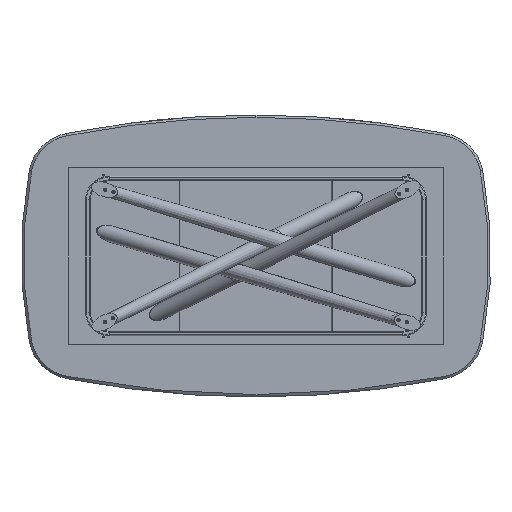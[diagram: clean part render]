
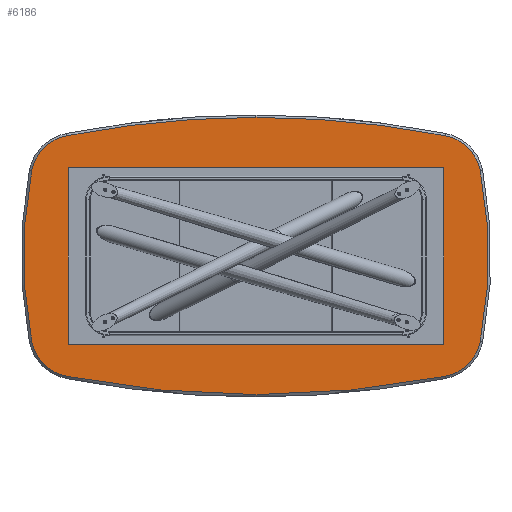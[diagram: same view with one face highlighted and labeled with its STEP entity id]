
A CAD part, front view. The second image highlights one B-rep face of the part: STEP entity #6186.
In plain terms, the highlighted planar face has unit normal (0, -1, 0).
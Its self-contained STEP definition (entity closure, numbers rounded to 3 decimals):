
#26 = EDGE_CURVE ( 'NONE', #6988, #4010, #11777, .T. ) ;
#78 = CIRCLE ( 'NONE', #7252, 190. ) ;
#124 = CARTESIAN_POINT ( 'NONE',  ( 0., 0., 590. ) ) ;
#384 = VERTEX_POINT ( 'NONE', #6684 ) ;
#427 = CARTESIAN_POINT ( 'NONE',  ( 0., 0., -3600. ) ) ;
#504 = CARTESIAN_POINT ( 'NONE',  ( -954.894, 0., -362.002 ) ) ;
#633 = DIRECTION ( 'NONE',  ( 0., -1., 0. ) ) ;
#663 = CARTESIAN_POINT ( 'NONE',  ( 768.435, 0., 325.495 ) ) ;
#879 = AXIS2_PLACEMENT_3D ( 'NONE', #7455, #4363, #11325 ) ;
#888 = AXIS2_PLACEMENT_3D ( 'NONE', #5545, #2594, #7481 ) ;
#898 = CIRCLE ( 'NONE', #9486, 4190. ) ;
#934 = ORIENTED_EDGE ( 'NONE', *, *, #12324, .T. ) ;
#1148 = DIRECTION ( 'NONE',  ( 0., -1., 0. ) ) ;
#1449 = CARTESIAN_POINT ( 'NONE',  ( -894., 0., 0. ) ) ;
#1729 = EDGE_CURVE ( 'NONE', #3922, #1943, #9342, .T. ) ;
#1824 = DIRECTION ( 'NONE',  ( 0., -1., 0. ) ) ;
#1943 = VERTEX_POINT ( 'NONE', #5301 ) ;
#1965 = VERTEX_POINT ( 'NONE', #124 ) ;
#2048 = EDGE_CURVE ( 'NONE', #7772, #3922, #11963, .T. ) ;
#2384 = DIRECTION ( 'NONE',  ( 0., 0., 1. ) ) ;
#2594 = DIRECTION ( 'NONE',  ( 0., 1., 0. ) ) ;
#2984 = EDGE_CURVE ( 'NONE', #1965, #6988, #5894, .T. ) ;
#3097 = EDGE_LOOP ( 'NONE', ( #11708, #934, #5998, #8208, #11661, #6121, #4957, #4359, #4588 ) ) ;
#3410 = CARTESIAN_POINT ( 'NONE',  ( 804.935, 0., -511.956 ) ) ;
#3855 = DIRECTION ( 'NONE',  ( 0., 0., 1. ) ) ;
#3922 = VERTEX_POINT ( 'NONE', #6459 ) ;
#4010 = VERTEX_POINT ( 'NONE', #7608 ) ;
#4278 = CARTESIAN_POINT ( 'NONE',  ( 768.435, 0., -325.495 ) ) ;
#4359 = ORIENTED_EDGE ( 'NONE', *, *, #26, .T. ) ;
#4363 = DIRECTION ( 'NONE',  ( 0., -1., 0. ) ) ;
#4518 = FACE_OUTER_BOUND ( 'NONE', #3097, .T. ) ;
#4588 = ORIENTED_EDGE ( 'NONE', *, *, #4875, .T. ) ;
#4644 = CARTESIAN_POINT ( 'NONE',  ( 0., 0., 3600. ) ) ;
#4834 = AXIS2_PLACEMENT_3D ( 'NONE', #1449, #633, #8363 ) ;
#4875 = EDGE_CURVE ( 'NONE', #4010, #10362, #11857, .T. ) ;
#4904 = DIRECTION ( 'NONE',  ( 0., -1., 0. ) ) ;
#4957 = ORIENTED_EDGE ( 'NONE', *, *, #2984, .T. ) ;
#5301 = CARTESIAN_POINT ( 'NONE',  ( 954.894, 0., 362.002 ) ) ;
#5537 = DIRECTION ( 'NONE',  ( 0., 0., 1. ) ) ;
#5545 = CARTESIAN_POINT ( 'NONE',  ( -447., 0., 1800. ) ) ;
#5894 = CIRCLE ( 'NONE', #11396, 4190. ) ;
#5998 = ORIENTED_EDGE ( 'NONE', *, *, #2048, .T. ) ;
#6121 = ORIENTED_EDGE ( 'NONE', *, *, #6464, .T. ) ;
#6149 = CARTESIAN_POINT ( 'NONE',  ( -768.435, 0., -325.495 ) ) ;
#6186 = ADVANCED_FACE ( 'NONE', ( #4518 ), #7544, .F. ) ;
#6459 = CARTESIAN_POINT ( 'NONE',  ( 954.894, 0., -362.002 ) ) ;
#6464 = EDGE_CURVE ( 'NONE', #384, #1965, #898, .T. ) ;
#6684 = CARTESIAN_POINT ( 'NONE',  ( 804.935, 0., 511.956 ) ) ;
#6988 = VERTEX_POINT ( 'NONE', #10051 ) ;
#7043 = DIRECTION ( 'NONE',  ( 0., 0., 1. ) ) ;
#7160 = EDGE_CURVE ( 'NONE', #1943, #384, #78, .T. ) ;
#7252 = AXIS2_PLACEMENT_3D ( 'NONE', #663, #11443, #12448 ) ;
#7286 = CIRCLE ( 'NONE', #10127, 190. ) ;
#7455 = CARTESIAN_POINT ( 'NONE',  ( 894., 0., 0. ) ) ;
#7481 = DIRECTION ( 'NONE',  ( 0., 0., 1. ) ) ;
#7544 = PLANE ( 'NONE',  #888 ) ;
#7608 = CARTESIAN_POINT ( 'NONE',  ( -954.894, 0., 362.002 ) ) ;
#7772 = VERTEX_POINT ( 'NONE', #3410 ) ;
#7933 = AXIS2_PLACEMENT_3D ( 'NONE', #10770, #4904, #3855 ) ;
#8085 = DIRECTION ( 'NONE',  ( 0., -1., 0. ) ) ;
#8208 = ORIENTED_EDGE ( 'NONE', *, *, #1729, .T. ) ;
#8363 = DIRECTION ( 'NONE',  ( 0., 0., 1. ) ) ;
#8366 = DIRECTION ( 'NONE',  ( 0., 0., 1. ) ) ;
#8695 = EDGE_CURVE ( 'NONE', #10362, #9073, #7286, .T. ) ;
#9073 = VERTEX_POINT ( 'NONE', #9779 ) ;
#9313 = DIRECTION ( 'NONE',  ( 0., -1., 0. ) ) ;
#9342 = CIRCLE ( 'NONE', #4834, 1884. ) ;
#9486 = AXIS2_PLACEMENT_3D ( 'NONE', #427, #8085, #2384 ) ;
#9779 = CARTESIAN_POINT ( 'NONE',  ( -804.935, 0., -511.956 ) ) ;
#10051 = CARTESIAN_POINT ( 'NONE',  ( -804.935, 0., 511.956 ) ) ;
#10127 = AXIS2_PLACEMENT_3D ( 'NONE', #6149, #12115, #11922 ) ;
#10203 = CARTESIAN_POINT ( 'NONE',  ( 0., 0., -3600. ) ) ;
#10362 = VERTEX_POINT ( 'NONE', #504 ) ;
#10387 = AXIS2_PLACEMENT_3D ( 'NONE', #4644, #1824, #8366 ) ;
#10770 = CARTESIAN_POINT ( 'NONE',  ( -768.435, 0., 325.495 ) ) ;
#11325 = DIRECTION ( 'NONE',  ( 0., 0., 1. ) ) ;
#11396 = AXIS2_PLACEMENT_3D ( 'NONE', #10203, #9313, #5537 ) ;
#11443 = DIRECTION ( 'NONE',  ( 0., -1., 0. ) ) ;
#11661 = ORIENTED_EDGE ( 'NONE', *, *, #7160, .T. ) ;
#11708 = ORIENTED_EDGE ( 'NONE', *, *, #8695, .T. ) ;
#11756 = AXIS2_PLACEMENT_3D ( 'NONE', #4278, #1148, #7043 ) ;
#11777 = CIRCLE ( 'NONE', #7933, 190. ) ;
#11857 = CIRCLE ( 'NONE', #879, 1884. ) ;
#11922 = DIRECTION ( 'NONE',  ( 0., 0., 1. ) ) ;
#11963 = CIRCLE ( 'NONE', #11756, 190. ) ;
#11983 = CIRCLE ( 'NONE', #10387, 4190. ) ;
#12115 = DIRECTION ( 'NONE',  ( 0., -1., 0. ) ) ;
#12324 = EDGE_CURVE ( 'NONE', #9073, #7772, #11983, .T. ) ;
#12448 = DIRECTION ( 'NONE',  ( 0., 0., 1. ) ) ;
